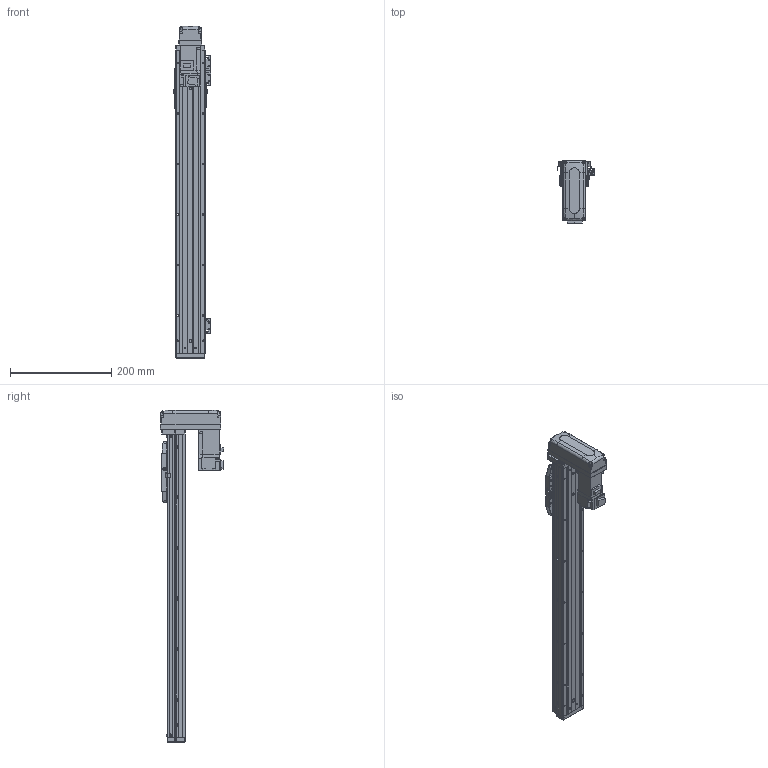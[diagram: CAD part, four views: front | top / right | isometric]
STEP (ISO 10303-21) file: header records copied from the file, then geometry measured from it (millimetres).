
FILE_DESCRIPTION (( 'STEP AP203' ), '1' );
FILE_NAME ('CTHA50-450-BM-M10-C4L.step', '2022-03-19T06:03:37', ( '微软用户' ), ( '微软中国' ), 'SwSTEP 2.0', 'SolidWorks 2020', '' );
FILE_SCHEMA (( 'CONFIG_CONTROL_DESIGN' ));
Length unit declared in the file: millimetre
Products named in the file (20): EE_SX911P_R; HG-KR13（三菱）; GBT 70.1-M3×15; GBT77-2000 M3×3; CTHA50-002; CTHA50-450-BM-M10-C4L; GBT 70.1-M3℅6; CTHA50-030; KTHA50-001_600; CTHA60-017; CTHA50-031; KTHA50-004; GBT 70.1-M4×12; GBT 70.3-M3℅6; KTHA50-005; CTHA60-016; CTHA50-015-2_CTHA60-015-2; GB¨uT 70.2-M3¡Á6_M3¡Á6; CTHA60-021; CTHA60-033
Assembly tree (60 placements, depth 2):
  CTHA50-450-BM-M10-C4L
    KTHA50-001_600
    KTHA50-004
    KTHA50-005
    GB¨uT 70.2-M3¡Á6_M3¡Á6  x10
    EE_SX911P_R  x3
    GBT77-2000 M3×3  x6
    GBT 70.1-M3℅6  x6
    CTHA60-017  x3
    GBT 70.1-M4×12  x10
    CTHA60-016  x2
    CTHA60-021  x2
    HG-KR13（三菱）
    CTHA50-002
    CTHA50-030  x2
    CTHA50-031
    GBT 70.3-M3℅6  x4
    CTHA50-015-2_CTHA60-015-2
    CTHA60-033
    GBT 70.1-M3×15  x4
Bounding box: 74.12 x 125.3 x 657 mm (x, y, z)
Volume: 1309847.8 mm3; surface area: 336599.1 mm2
Topology: 62 solids, 62 shells, 2533 faces, 6023 edges, 3690 vertices
Faces by surface type: plane 1434, cylinder 588, cone 353, torus 108, bspline 26, sphere 24
Entity records: 43331 total; most frequent: CARTESIAN_POINT 7995, DIRECTION 6755, ORIENTED_EDGE 6554, EDGE_CURVE 3277, VECTOR 2295, LINE 2295, AXIS2_PLACEMENT_3D 2230, VERTEX_POINT 2064
